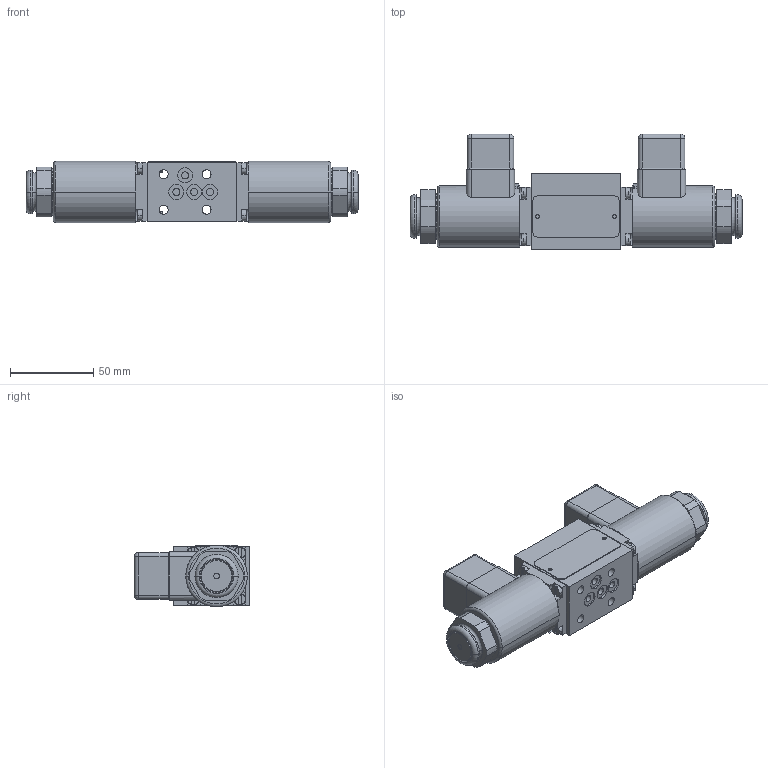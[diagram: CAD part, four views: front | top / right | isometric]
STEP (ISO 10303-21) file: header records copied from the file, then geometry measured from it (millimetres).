
FILE_DESCRIPTION((''),'2;1');
FILE_NAME('RPE2-043-3_ASM','2019-08-21T',('j.koudelka'),(''),'PRO/ENGINEER BY PARAMETRIC TECHNOLOGY CORPORATION, 2015440','PRO/ENGINEER BY PARAMETRIC TECHNOLOGY CORPORATION, 2015440','');
FILE_SCHEMA(('AUTOMOTIVE_DESIGN { 1 0 10303 214 1 1 1 1 }'));
Length unit declared in the file: millimetre
Products named in the file (6): RPE2-043-3; 32246100; C19B_E1; RD_LABEL_25X52_159703; ISO_1207_M4X12_202229; RPE2-043-3_ASM
Assembly tree (14 placements, depth 2):
  RPE2-043-3_ASM
    RPE2-043-3
    32246100  x2
    C19B_E1  x2
    RD_LABEL_25X52_159703
    ISO_1207_M4X12_202229  x8
Bounding box: 199.4 x 69.5 x 37 mm (x, y, z)
Volume: 269238.3 mm3; surface area: 67392.3 mm2
Topology: 14 solids, 26 shells, 439 faces, 1165 edges, 882 vertices
Faces by surface type: cylinder 192, plane 183, cone 40, torus 16, sphere 8
Entity records: 12458 total; most frequent: DIRECTION 1553, CARTESIAN_POINT 1530, ORIENTED_EDGE 1126, PRESENTATION_STYLE_ASSIGNMENT 866, STYLED_ITEM 734, CURVE_STYLE 712, AXIS2_PLACEMENT_3D 581, EDGE_CURVE 567
